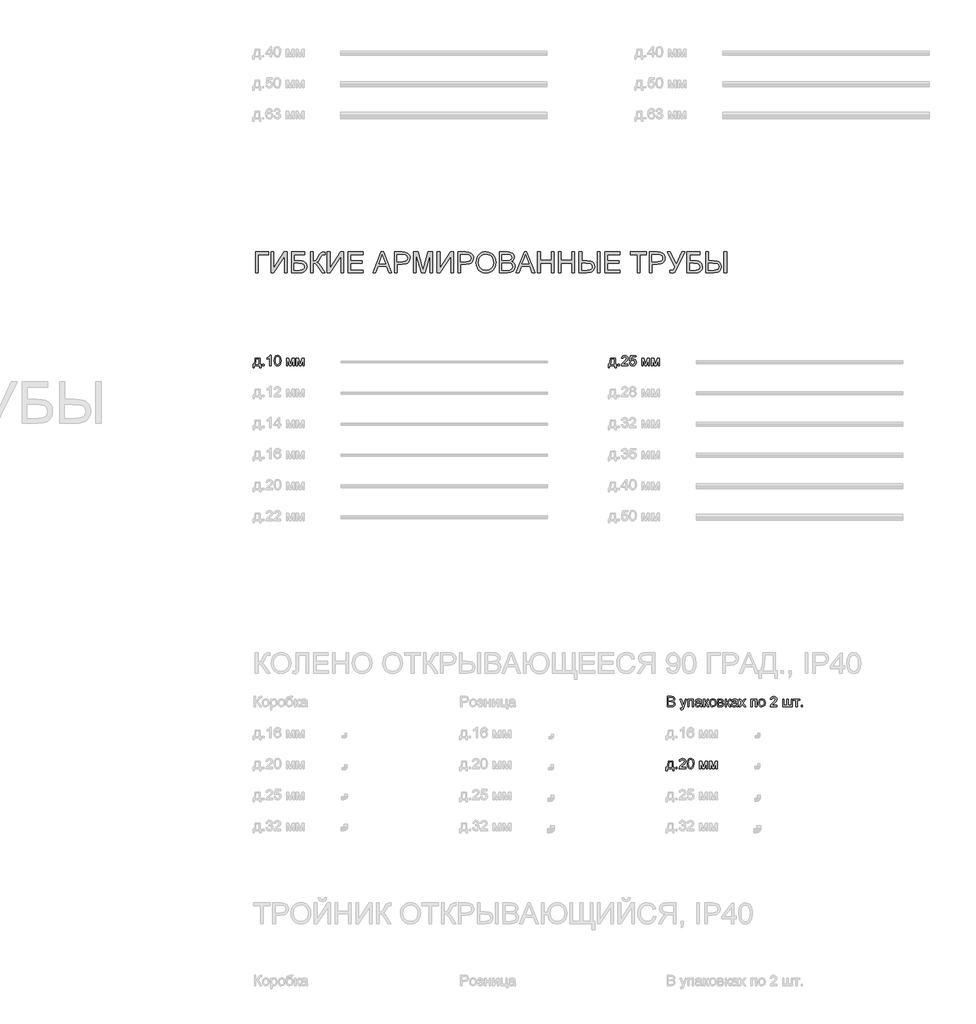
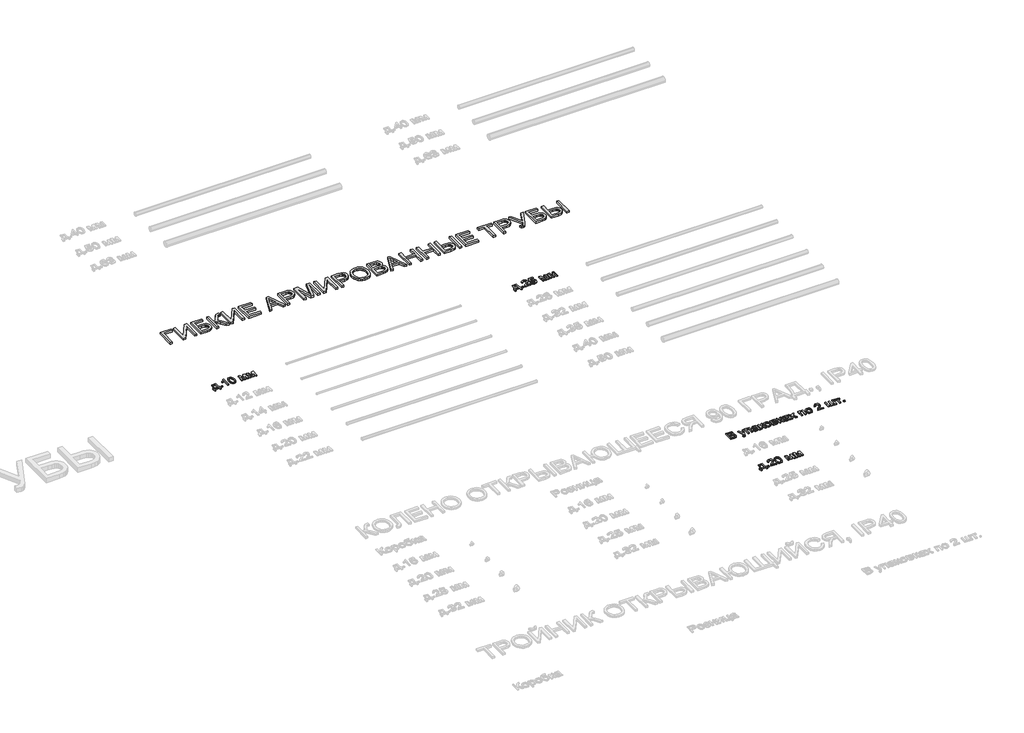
# One storey, part 83 of 98: 5 proxies.
"""IFC4 building model written with IfcOpenShell, lengths in millimetres."""

from ifc_helpers import new_model, si_unit, origin, origin_with_axes, place, context, project, spatial, polyline, outline, extrude, element, save

model = new_model("IFC4")

# Units and contexts
model_context = context("Model", 3, world=origin())
ifc_project = project(units=[si_unit("LENGTHUNIT", "METRE", prefix="MILLI")], contexts=[model_context])

# Site, building, storey
site = spatial("IfcSite", under=ifc_project)
building = spatial("IfcBuilding", under=site)
storey = spatial("IfcBuildingStorey", under=building, Name="Этаж 01", Elevation=0.0)

# Proxies
placement = place(None, origin())
element("IfcBuildingElementProxy", 1, Name="100", ObjectType="100", at=placement, inside=storey, context=model_context, shape_type="SweptSolid", body=[
    extrude(outline(polyline([(-26.9858135, -11785.678477), (20.1030819, -11785.678477), (20.1030819, -11846.894041), (29.520861, -11846.894041), (29.520861, -11879.8562677), (16.9638222, -11879.8562677), (16.9638222, -11859.4510797), (-34.8339627, -11859.4510797), (-34.8339627, -11879.8562677), (-47.3910015, -11879.8562677), (-47.3910015, -11846.894041), (-39.5428522, -11846.894041), (-29.8430303, -11822.9449231), (-26.9858135, -11785.678477)]), holes=[polyline([(-15.9984045, -11798.2355157), (-18.9414605, -11826.8444722), (-25.4161836, -11846.894041), (7.5460431, -11846.894041), (7.5460431, -11798.2355157), (-15.9984045, -11798.2355157)])]), origin_with_axes(), (0.0, 0.0, 1.0), 10.0),
    extrude(outline(polyline([(46.7867893, -11859.4510797), (46.7867893, -11846.894041), (59.3438281, -11846.894041), (59.3438281, -11859.4510797), (46.7867893, -11859.4510797)])), origin_with_axes(), (0.0, 0.0, 1.0), 10.0),
    extrude(outline(polyline([(126.8379114, -11859.4510797), (114.2808727, -11859.4510797), (114.2808727, -11781.1657912), (102.3860215, -11789.6393398), (89.1667951, -11795.9791728), (89.1667951, -11784.1088471), (107.5731576, -11772.3611487), (118.7445076, -11758.9947696), (126.8379114, -11758.9947696), (126.8379114, -11859.4510797)])), origin_with_axes(), (0.0, 0.0, 1.0), 10.0),
    extrude(outline(polyline([(156.6608785, -11810.032265), (160.3519612, -11781.129003), (171.3148447, -11764.4639486), (189.6231053, -11758.9947696), (204.2893342, -11762.2321311), (214.4183518, -11771.5640711), (220.3044637, -11786.4265037), (222.5853321, -11810.032265), (218.9310376, -11838.8128998), (208.0049423, -11855.5147424), (199.7735827, -11859.6442178), (189.6231053, -11861.0207096), (176.5755572, -11858.6294766), (166.6672688, -11851.4557777), (159.1624761, -11834.4657609), (156.6608785, -11810.032265)]), holes=[polyline([(169.2179173, -11810.0077396), (170.6894453, -11829.759937), (175.1040292, -11841.19187), (181.6768542, -11846.6457206), (189.6231053, -11848.4636708), (197.5693564, -11846.6395892), (204.1421814, -11841.1673446), (208.5567653, -11829.7292802), (210.0282933, -11810.0077396), (208.6058162, -11790.7000662), (204.3383851, -11779.1792284), (197.7778228, -11773.4586634), (189.4759525, -11771.5518083), (181.6155405, -11773.2318028), (175.3002329, -11778.2717861), (170.7384962, -11790.5099938), (169.2179173, -11810.0077396)])]), origin_with_axes(), (0.0, 0.0, 1.0), 10.0),
    extrude(outline(polyline([(275.9527468, -11785.678477), (297.5596827, -11785.678477), (314.2124743, -11844.7357999), (332.1651157, -11785.678477), (352.8646093, -11785.678477), (352.8646093, -11859.4510797), (340.3075705, -11859.4510797), (340.3075705, -11800.0504002), (322.2568273, -11859.4510797), (305.7757139, -11859.4510797), (288.5097856, -11797.2054461), (288.5097856, -11859.4510797), (275.9527468, -11859.4510797), (275.9527468, -11785.678477)])), origin_with_axes(), (0.0, 0.0, 1.0), 10.0),
    extrude(outline(polyline([(371.7001674, -11785.678477), (393.3071033, -11785.678477), (409.9598949, -11844.7357999), (427.9125363, -11785.678477), (448.6120299, -11785.678477), (448.6120299, -11859.4510797), (436.0549911, -11859.4510797), (436.0549911, -11800.0504002), (418.0042479, -11859.4510797), (401.5231345, -11859.4510797), (384.2572062, -11797.2054461), (384.2572062, -11859.4510797), (371.7001674, -11859.4510797), (371.7001674, -11785.678477)])), origin_with_axes(), (0.0, 0.0, 1.0), 10.0),
])
element("IfcBuildingElementProxy", 2, Name="100", ObjectType="100", at=placement, inside=storey, context=model_context, shape_type="SweptSolid", body=[
    extrude(outline(polyline([(3413.0141865, -11785.678477), (3460.1030819, -11785.678477), (3460.1030819, -11846.894041), (3469.520861, -11846.894041), (3469.520861, -11879.8562677), (3456.9638222, -11879.8562677), (3456.9638222, -11859.4510797), (3405.1660373, -11859.4510797), (3405.1660373, -11879.8562677), (3392.6089985, -11879.8562677), (3392.6089985, -11846.894041), (3400.4571478, -11846.894041), (3410.1569697, -11822.9449231), (3413.0141865, -11785.678477)]), holes=[polyline([(3424.0015955, -11798.2355157), (3421.0585395, -11826.8444722), (3414.5838164, -11846.894041), (3447.5460431, -11846.894041), (3447.5460431, -11798.2355157), (3424.0015955, -11798.2355157)])]), origin_with_axes(), (0.0, 0.0, 1.0), 10.0),
    extrude(outline(polyline([(3486.7867893, -11859.4510797), (3486.7867893, -11846.894041), (3499.3438281, -11846.894041), (3499.3438281, -11859.4510797), (3486.7867893, -11859.4510797)])), origin_with_axes(), (0.0, 0.0, 1.0), 10.0),
    extrude(outline(polyline([(3584.1038398, -11846.894041), (3584.1038398, -11859.4510797), (3518.1793862, -11859.4510797), (3519.5282869, -11850.7935901), (3527.1557069, -11837.4639991), (3542.8765308, -11822.9081349), (3564.5570431, -11801.9879121), (3569.9771711, -11787.7631416), (3564.8636114, -11776.2484351), (3551.509495, -11771.5518083), (3537.5912928, -11776.1380705), (3532.3060548, -11788.8177367), (3519.7490161, -11787.2481068), (3522.7932396, -11775.1018696), (3529.3752616, -11766.2297821), (3539.1517256, -11760.8035227), (3551.7792751, -11758.9947696), (3564.4987951, -11761.0058578), (3574.256865, -11767.0391225), (3580.4648737, -11776.0522314), (3582.5342099, -11787.0028521), (3580.3023925, -11798.9099661), (3572.8834389, -11811.2217502), (3554.8940093, -11828.4263648), (3540.4485097, -11840.505157), (3534.7831269, -11846.894041), (3584.1038398, -11846.894041)])), origin_with_axes(), (0.0, 0.0, 1.0), 10.0),
    extrude(outline(polyline([(3596.6608785, -11832.7673723), (3609.2179173, -11831.1977425), (3615.5454876, -11844.134926), (3628.6666121, -11848.4636708), (3637.6674583, -11846.9584203), (3644.4119615, -11842.4426688), (3648.6242103, -11835.4375825), (3650.0282933, -11826.4643275), (3644.7675808, -11811.552844), (3638.1610333, -11807.4509597), (3628.8628158, -11806.083665), (3617.8386187, -11808.2664315), (3610.7875471, -11813.9318142), (3598.2305084, -11812.3621843), (3609.2179173, -11760.5643994), (3657.8764425, -11760.5643994), (3657.8764425, -11773.1214382), (3619.3714604, -11773.1214382), (3614.0003832, -11800.7861642), (3622.9705725, -11795.3415107), (3632.3699575, -11793.5266262), (3644.1023275, -11795.7768377), (3653.8420033, -11802.5274723), (3660.3994999, -11812.8159055), (3662.5853321, -11825.6795126), (3660.6171634, -11838.2365513), (3654.7126574, -11848.9787056), (3643.4064174, -11858.0102086), (3628.6175612, -11861.0207096), (3616.2843173, -11859.0862634), (3606.4588023, -11853.2829249), (3599.7234961, -11844.2851445), (3596.6608785, -11832.7673723)])), origin_with_axes(), (0.0, 0.0, 1.0), 10.0),
    extrude(outline(polyline([(3715.9527468, -11785.678477), (3737.5596827, -11785.678477), (3754.2124743, -11844.7357999), (3772.1651157, -11785.678477), (3792.8646093, -11785.678477), (3792.8646093, -11859.4510797), (3780.3075705, -11859.4510797), (3780.3075705, -11800.0504002), (3762.2568273, -11859.4510797), (3745.7757139, -11859.4510797), (3728.5097856, -11797.2054461), (3728.5097856, -11859.4510797), (3715.9527468, -11859.4510797), (3715.9527468, -11785.678477)])), origin_with_axes(), (0.0, 0.0, 1.0), 10.0),
    extrude(outline(polyline([(3811.7001674, -11785.678477), (3833.3071033, -11785.678477), (3849.9598949, -11844.7357999), (3867.9125363, -11785.678477), (3888.6120299, -11785.678477), (3888.6120299, -11859.4510797), (3876.0549911, -11859.4510797), (3876.0549911, -11800.0504002), (3858.0042479, -11859.4510797), (3841.5231345, -11859.4510797), (3824.2572062, -11797.2054461), (3824.2572062, -11859.4510797), (3811.7001674, -11859.4510797), (3811.7001674, -11785.678477)])), origin_with_axes(), (0.0, 0.0, 1.0), 10.0),
])
element("IfcBuildingElementProxy", 3, Name="100", ObjectType="100", at=placement, inside=storey, context=model_context, shape_type="SweptSolid", body=[
    extrude(outline(polyline([(3963.5964075, -15159.5121665), (3963.5964075, -15059.0558563), (4001.9297114, -15059.0558563), (4020.7039558, -15062.011175), (4031.7894666, -15071.0978603), (4035.7993804, -15083.9492046), (4032.4271288, -15095.6846403), (4022.2367975, -15104.5751218), (4034.6098953, -15113.94385), (4038.9386401, -15129.5665721), (4035.9833214, -15143.0678413), (4028.6624697, -15152.6818241), (4017.7363744, -15157.7831211), (4001.6354058, -15159.5121665), (3963.5964075, -15159.5121665)]), holes=[polyline([(3976.1534462, -15099.8662323), (3999.0847573, -15099.8662323), (4012.4756619, -15098.7871118), (4020.5322776, -15094.1395359), (4023.2423416, -15085.9602929), (4020.7162186, -15077.7687871), (4013.481206, -15072.9250075), (3997.3434491, -15071.6128951), (3976.1534462, -15071.6128951), (3976.1534462, -15099.8662323)]), polyline([(3976.1534462, -15146.9551277), (4001.9051859, -15146.9551277), (4011.2248631, -15146.4646184), (4019.1098005, -15143.7300289), (4024.3337249, -15138.1504853), (4026.3816013, -15129.6891994), (4023.9781056, -15119.9280638), (4016.19127, -15114.1032655), (4000.6789126, -15112.4232711), (3976.1534462, -15112.4232711), (3976.1534462, -15146.9551277)])]), origin_with_axes(), (0.0, 0.0, 1.0), 10.0),
    extrude(outline(polyline([(4093.8756847, -15187.7655037), (4092.3060548, -15175.6744488), (4098.6826761, -15176.7780948), (4104.6423644, -15175.3924059), (4108.2966589, -15171.529645), (4111.7302242, -15162.2835442), (4112.7112428, -15159.2423863), (4086.0275354, -15085.7395637), (4099.2712873, -15085.7395637), (4113.4224814, -15126.6970925), (4118.3521001, -15143.080104), (4123.2817188, -15128.6100789), (4137.8253204, -15085.7395637), (4150.9709703, -15085.7395637), (4125.2928071, -15161.278), (4118.6218802, -15177.6610116), (4111.3378167, -15186.5147049), (4101.5521556, -15189.3351335), (4093.8756847, -15187.7655037)])), origin_with_axes(), (0.0, 0.0, 1.0), 10.0),
    extrude(outline(polyline([(4161.3697681, -15085.7395637), (4217.8764425, -15085.7395637), (4217.8764425, -15159.5121665), (4205.3194038, -15159.5121665), (4205.3194038, -15098.2966025), (4173.9268068, -15098.2966025), (4173.9268068, -15159.5121665), (4161.3697681, -15159.5121665), (4161.3697681, -15085.7395637)])), origin_with_axes(), (0.0, 0.0, 1.0), 10.0),
    extrude(outline(polyline([(4283.8008961, -15150.0943874), (4271.624002, -15158.6047242), (4258.1717837, -15161.0817963), (4247.6779498, -15159.5918742), (4239.9370995, -15155.122108), (4235.1638306, -15148.3346852), (4233.572741, -15139.8917934), (4235.9762367, -15129.9589795), (4242.2915443, -15122.7484924), (4251.083924, -15118.6282141), (4261.9487055, -15116.7397532), (4283.7273197, -15112.4232711), (4283.8008961, -15109.6273679), (4280.3428053, -15100.3567416), (4266.4613913, -15096.7269726), (4253.7571998, -15099.142731), (4247.6994096, -15107.7143815), (4235.1423708, -15106.1447517), (4240.5747616, -15093.8820185), (4251.5131196, -15086.6960569), (4268.0800721, -15084.1699338), (4283.298124, -15086.4017513), (4291.8942999, -15092.0058203), (4295.7447982, -15100.5284199), (4296.3579348, -15111.5158288), (4296.3579348, -15127.1385509), (4296.9955969, -15148.9539532), (4299.4971945, -15159.5121665), (4286.9401557, -15159.5121665), (4283.8008961, -15150.0943874)]), holes=[polyline([(4283.8008961, -15124.9803098), (4263.5428609, -15128.8308081), (4252.7393929, -15130.8664218), (4247.8465624, -15134.1773597), (4246.1297797, -15139.0088766), (4249.8699134, -15145.8024308), (4260.8450596, -15148.5247575), (4273.5492511, -15145.5203879), (4281.7407569, -15138.2485871), (4283.7273197, -15128.5365025), (4283.8008961, -15124.9803098)])]), origin_with_axes(), (0.0, 0.0, 1.0), 10.0),
    extrude(outline(polyline([(4313.6238631, -15085.7395637), (4326.1809019, -15085.7395637), (4326.1809019, -15117.1321606), (4334.5931369, -15114.8758177), (4341.4847929, -15101.7301677), (4347.2114893, -15090.3871396), (4352.2637354, -15086.6960569), (4361.4485225, -15085.7395637), (4363.8520182, -15085.7395637), (4363.8520182, -15098.3701789), (4360.4675038, -15098.2966025), (4354.3361373, -15099.6209776), (4350.0196552, -15107.8860598), (4344.9551464, -15116.8255923), (4337.8550239, -15121.203388), (4345.7767495, -15126.0900872), (4353.5513223, -15136.3846517), (4366.9912779, -15159.5121665), (4352.7174565, -15159.5121665), (4339.5472811, -15136.875161), (4332.9254051, -15127.2979664), (4326.1809019, -15124.9803098), (4326.1809019, -15159.5121665), (4313.6238631, -15159.5121665), (4313.6238631, -15085.7395637)])), origin_with_axes(), (0.0, 0.0, 1.0), 10.0),
    extrude(outline(polyline([(4371.7001674, -15122.6258651), (4374.4163628, -15104.8387706), (4382.564949, -15092.3369141), (4392.632653, -15086.2116789), (4404.6869197, -15084.1699338), (4417.8785549, -15086.656203), (4428.4153084, -15094.1150104), (4435.3222928, -15105.957745), (4437.624621, -15121.5957955), (4433.5533936, -15143.9384953), (4421.6953306, -15156.5813732), (4404.6869197, -15161.0817963), (4391.3358689, -15158.6047242), (4380.8113782, -15151.1735079), (4373.9779701, -15139.082453), (4371.7001674, -15122.6258651)]), holes=[polyline([(4384.2572062, -15122.6013396), (4385.7103401, -15133.9658276), (4390.0697417, -15142.0622972), (4396.630304, -15146.9091424), (4404.6869197, -15148.5247575), (4412.7067472, -15146.8999454), (4419.2550467, -15142.025509), (4423.6144483, -15133.8217405), (4425.0675822, -15122.2089321), (4423.6052513, -15111.175538), (4419.2182585, -15103.189433), (4412.6607619, -15098.3425877), (4404.6869197, -15096.7269726), (4396.630304, -15098.3364563), (4390.0697417, -15103.1649075), (4385.7103401, -15111.242983), (4384.2572062, -15122.6013396)])]), origin_with_axes(), (0.0, 0.0, 1.0), 10.0),
    extrude(outline(polyline([(4451.7512896, -15085.7395637), (4479.4160156, -15085.7395637), (4494.5850166, -15087.4195581), (4503.1198788, -15093.5754502), (4506.6883342, -15104.3053417), (4504.5300932, -15113.024145), (4498.0308446, -15119.2413507), (4506.467605, -15126.0471676), (4509.8275939, -15137.8807051), (4507.7000097, -15147.4517684), (4502.6416323, -15154.1901403), (4494.6340675, -15158.1816599), (4483.6589213, -15159.5121665), (4451.7512896, -15159.5121665), (4451.7512896, -15085.7395637)]), holes=[polyline([(4464.3083284, -15146.9551277), (4479.7103212, -15146.9551277), (4493.371006, -15144.6865221), (4497.2705551, -15136.8506356), (4495.1245768, -15130.8051081), (4489.5327705, -15127.2857037), (4478.4840479, -15126.5499397), (4464.3083284, -15126.5499397), (4464.3083284, -15146.9551277)]), polyline([(4464.3083284, -15113.9929009), (4476.7182143, -15113.9929009), (4486.9575965, -15113.3552388), (4491.9362662, -15110.8045903), (4494.1312954, -15106.1938026), (4490.2807972, -15100.0379106), (4477.1106218, -15098.2966025), (4464.3083284, -15098.2966025), (4464.3083284, -15113.9929009)])]), origin_with_axes(), (0.0, 0.0, 1.0), 10.0),
    extrude(outline(polyline([(4525.5238924, -15085.7395637), (4538.0809311, -15085.7395637), (4538.0809311, -15117.1321606), (4546.4931661, -15114.8758177), (4553.3848221, -15101.7301677), (4559.1115185, -15090.3871396), (4564.1637646, -15086.6960569), (4573.3485517, -15085.7395637), (4575.7520474, -15085.7395637), (4575.7520474, -15098.3701789), (4572.3675331, -15098.2966025), (4566.2361665, -15099.6209776), (4561.9196844, -15107.8860598), (4556.8551756, -15116.8255923), (4549.7550531, -15121.203388), (4557.6767787, -15126.0900872), (4565.4513516, -15136.3846517), (4578.8913071, -15159.5121665), (4564.6174857, -15159.5121665), (4551.4473103, -15136.875161), (4544.8254344, -15127.2979664), (4538.0809311, -15124.9803098), (4538.0809311, -15159.5121665), (4525.5238924, -15159.5121665), (4525.5238924, -15085.7395637)])), origin_with_axes(), (0.0, 0.0, 1.0), 10.0),
    extrude(outline(polyline([(4633.8283517, -15150.0943874), (4621.6514577, -15158.6047242), (4608.1992394, -15161.0817963), (4597.7054055, -15159.5918742), (4589.9645552, -15155.122108), (4585.1912863, -15148.3346852), (4583.6001967, -15139.8917934), (4586.0036924, -15129.9589795), (4592.3189999, -15122.7484924), (4601.1113796, -15118.6282141), (4611.9761612, -15116.7397532), (4633.7547753, -15112.4232711), (4633.8283517, -15109.6273679), (4630.370261, -15100.3567416), (4616.488847, -15096.7269726), (4603.7846555, -15099.142731), (4597.7268653, -15107.7143815), (4585.1698265, -15106.1447517), (4590.6022173, -15093.8820185), (4601.5405753, -15086.6960569), (4618.1075278, -15084.1699338), (4633.3255797, -15086.4017513), (4641.9217556, -15092.0058203), (4645.7722538, -15100.5284199), (4646.3853905, -15111.5158288), (4646.3853905, -15127.1385509), (4647.0230526, -15148.9539532), (4649.5246502, -15159.5121665), (4636.9676114, -15159.5121665), (4633.8283517, -15150.0943874)]), holes=[polyline([(4633.8283517, -15124.9803098), (4613.5703165, -15128.8308081), (4602.7668486, -15130.8664218), (4597.8740181, -15134.1773597), (4596.1572354, -15139.0088766), (4599.897369, -15145.8024308), (4610.8725152, -15148.5247575), (4623.5767068, -15145.5203879), (4631.7682126, -15138.2485871), (4633.7547753, -15128.5365025), (4633.8283517, -15124.9803098)])]), origin_with_axes(), (0.0, 0.0, 1.0), 10.0),
    extrude(outline(polyline([(4655.8031696, -15159.5121665), (4682.6340298, -15122.4296613), (4657.3727994, -15085.7395637), (4672.4804867, -15085.7395637), (4684.6696435, -15103.3978995), (4690.3595517, -15111.736558), (4695.2891704, -15104.9184784), (4709.1705843, -15085.7395637), (4724.2782716, -15085.7395637), (4697.741717, -15122.4296613), (4723.297253, -15159.5121665), (4708.1895657, -15159.5121665), (4692.8120983, -15137.2185176), (4689.9916697, -15133.1472901), (4670.9108568, -15159.5121665), (4655.8031696, -15159.5121665)])), origin_with_axes(), (0.0, 0.0, 1.0), 10.0),
    extrude(outline(polyline([(4773.525408, -15085.7395637), (4830.0320825, -15085.7395637), (4830.0320825, -15159.5121665), (4817.4750437, -15159.5121665), (4817.4750437, -15098.2966025), (4786.0824468, -15098.2966025), (4786.0824468, -15159.5121665), (4773.525408, -15159.5121665), (4773.525408, -15085.7395637)])), origin_with_axes(), (0.0, 0.0, 1.0), 10.0),
    extrude(outline(polyline([(4845.728381, -15122.6258651), (4848.4445764, -15104.8387706), (4856.5931625, -15092.3369141), (4866.6608665, -15086.2116789), (4878.7151332, -15084.1699338), (4891.9067684, -15086.656203), (4902.4435219, -15094.1150104), (4909.3505063, -15105.957745), (4911.6528345, -15121.5957955), (4907.5816071, -15143.9384953), (4895.7235441, -15156.5813732), (4878.7151332, -15161.0817963), (4865.3640824, -15158.6047242), (4854.8395917, -15151.1735079), (4848.0061836, -15139.082453), (4845.728381, -15122.6258651)]), holes=[polyline([(4858.2854197, -15122.6013396), (4859.7385536, -15133.9658276), (4864.0979552, -15142.0622972), (4870.6585175, -15146.9091424), (4878.7151332, -15148.5247575), (4886.7349607, -15146.8999454), (4893.2832602, -15142.025509), (4897.6426618, -15133.8217405), (4899.0957957, -15122.2089321), (4897.6334648, -15111.175538), (4893.246472, -15103.189433), (4886.6889754, -15098.3425877), (4878.7151332, -15096.7269726), (4870.6585175, -15098.3364563), (4864.0979552, -15103.1649075), (4859.7385536, -15111.242983), (4858.2854197, -15122.6013396)])]), origin_with_axes(), (0.0, 0.0, 1.0), 10.0),
    extrude(outline(polyline([(5026.2358133, -15146.9551277), (5026.2358133, -15159.5121665), (4960.3113597, -15159.5121665), (4961.6602604, -15150.8546768), (4969.2876804, -15137.5250859), (4985.0085043, -15122.9692216), (5006.6890166, -15102.0489988), (5012.1091446, -15087.8242283), (5006.9955849, -15076.3095219), (4993.6414685, -15071.6128951), (4979.7232663, -15076.1991573), (4974.4380283, -15088.8788234), (4961.8809896, -15087.3091935), (4964.9252131, -15075.1629563), (4971.5072351, -15066.2908689), (4981.2836991, -15060.8646095), (4993.9112486, -15059.0558563), (5006.6307686, -15061.0669445), (5016.3888385, -15067.1002093), (5022.5968472, -15076.1133182), (5024.6661834, -15087.0639389), (5022.434366, -15098.9710528), (5015.0154124, -15111.2828369), (4997.0259828, -15128.4874515), (4982.5804832, -15140.5662437), (4976.9151004, -15146.9551277), (5026.2358133, -15146.9551277)])), origin_with_axes(), (0.0, 0.0, 1.0), 10.0),
    extrude(outline(polyline([(5081.1728579, -15085.7395637), (5093.7298966, -15085.7395637), (5093.7298966, -15146.9551277), (5121.9832339, -15146.9551277), (5121.9832339, -15085.7395637), (5134.5402726, -15085.7395637), (5134.5402726, -15146.9551277), (5162.7936099, -15146.9551277), (5162.7936099, -15085.7395637), (5175.3506486, -15085.7395637), (5175.3506486, -15159.5121665), (5081.1728579, -15159.5121665), (5081.1728579, -15085.7395637)])), origin_with_axes(), (0.0, 0.0, 1.0), 10.0),
    extrude(outline(polyline([(5186.3380576, -15085.7395637), (5245.9839917, -15085.7395637), (5245.9839917, -15098.2966025), (5222.439544, -15098.2966025), (5222.439544, -15159.5121665), (5209.8825052, -15159.5121665), (5209.8825052, -15098.2966025), (5186.3380576, -15098.2966025), (5186.3380576, -15085.7395637)])), origin_with_axes(), (0.0, 0.0, 1.0), 10.0),
    extrude(outline(polyline([(5260.1106603, -15159.5121665), (5260.1106603, -15146.9551277), (5272.6676991, -15146.9551277), (5272.6676991, -15159.5121665), (5260.1106603, -15159.5121665)])), origin_with_axes(), (0.0, 0.0, 1.0), 10.0),
])
element("IfcBuildingElementProxy", 4, Name="100", ObjectType="100", at=placement, inside=storey, context=model_context, shape_type="SweptSolid", body=[
    extrude(outline(polyline([(3973.0141865, -15685.7395637), (4020.1030819, -15685.7395637), (4020.1030819, -15746.9551277), (4029.520861, -15746.9551277), (4029.520861, -15779.9173545), (4016.9638222, -15779.9173545), (4016.9638222, -15759.5121665), (3965.1660373, -15759.5121665), (3965.1660373, -15779.9173545), (3952.6089985, -15779.9173545), (3952.6089985, -15746.9551277), (3960.4571478, -15746.9551277), (3970.1569697, -15723.0060098), (3973.0141865, -15685.7395637)]), holes=[polyline([(3984.0015955, -15698.2966025), (3981.0585395, -15726.905559), (3974.5838164, -15746.9551277), (4007.5460431, -15746.9551277), (4007.5460431, -15698.2966025), (3984.0015955, -15698.2966025)])]), origin_with_axes(), (0.0, 0.0, 1.0), 10.0),
    extrude(outline(polyline([(4046.7867893, -15759.5121665), (4046.7867893, -15746.9551277), (4059.3438281, -15746.9551277), (4059.3438281, -15759.5121665), (4046.7867893, -15759.5121665)])), origin_with_axes(), (0.0, 0.0, 1.0), 10.0),
    extrude(outline(polyline([(4144.1038398, -15746.9551277), (4144.1038398, -15759.5121665), (4078.1793862, -15759.5121665), (4079.5282869, -15750.8546768), (4087.1557069, -15737.5250859), (4102.8765308, -15722.9692216), (4124.5570431, -15702.0489988), (4129.9771711, -15687.8242283), (4124.8636114, -15676.3095219), (4111.509495, -15671.6128951), (4097.5912928, -15676.1991573), (4092.3060548, -15688.8788234), (4079.7490161, -15687.3091935), (4082.7932396, -15675.1629563), (4089.3752616, -15666.2908689), (4099.1517256, -15660.8646095), (4111.7792751, -15659.0558563), (4124.4987951, -15661.0669445), (4134.256865, -15667.1002093), (4140.4648737, -15676.1133182), (4142.5342099, -15687.0639389), (4140.3023925, -15698.9710528), (4132.8834389, -15711.2828369), (4114.8940093, -15728.4874515), (4100.4485097, -15740.5662437), (4094.7831269, -15746.9551277), (4144.1038398, -15746.9551277)])), origin_with_axes(), (0.0, 0.0, 1.0), 10.0),
    extrude(outline(polyline([(4156.6608785, -15710.0933518), (4160.3519612, -15681.1900897), (4171.3148447, -15664.5250353), (4189.6231053, -15659.0558563), (4204.2893342, -15662.2932179), (4214.4183518, -15671.6251578), (4220.3044637, -15686.4875904), (4222.5853321, -15710.0933518), (4218.9310376, -15738.8739865), (4208.0049423, -15755.5758291), (4199.7735827, -15759.7053045), (4189.6231053, -15761.0817963), (4176.5755572, -15758.6905633), (4166.6672688, -15751.5168644), (4159.1624761, -15734.5268476), (4156.6608785, -15710.0933518)]), holes=[polyline([(4169.2179173, -15710.0688263), (4170.6894453, -15729.8210238), (4175.1040292, -15741.2529568), (4181.6768542, -15746.7068073), (4189.6231053, -15748.5247575), (4197.5693564, -15746.700676), (4204.1421814, -15741.2284313), (4208.5567653, -15729.7903669), (4210.0282933, -15710.0688263), (4208.6058162, -15690.7611529), (4204.3383851, -15679.2403151), (4197.7778228, -15673.5197501), (4189.4759525, -15671.6128951), (4181.6155405, -15673.2928895), (4175.3002329, -15678.3328729), (4170.7384962, -15690.5710806), (4169.2179173, -15710.0688263)])]), origin_with_axes(), (0.0, 0.0, 1.0), 10.0),
    extrude(outline(polyline([(4275.9527468, -15685.7395637), (4297.5596827, -15685.7395637), (4314.2124743, -15744.7968867), (4332.1651157, -15685.7395637), (4352.8646093, -15685.7395637), (4352.8646093, -15759.5121665), (4340.3075705, -15759.5121665), (4340.3075705, -15700.111487), (4322.2568273, -15759.5121665), (4305.7757139, -15759.5121665), (4288.5097856, -15697.2665329), (4288.5097856, -15759.5121665), (4275.9527468, -15759.5121665), (4275.9527468, -15685.7395637)])), origin_with_axes(), (0.0, 0.0, 1.0), 10.0),
    extrude(outline(polyline([(4371.7001674, -15685.7395637), (4393.3071033, -15685.7395637), (4409.9598949, -15744.7968867), (4427.9125363, -15685.7395637), (4448.6120299, -15685.7395637), (4448.6120299, -15759.5121665), (4436.0549911, -15759.5121665), (4436.0549911, -15700.111487), (4418.0042479, -15759.5121665), (4401.5231345, -15759.5121665), (4384.2572062, -15697.2665329), (4384.2572062, -15759.5121665), (4371.7001674, -15759.5121665), (4371.7001674, -15685.7395637)])), origin_with_axes(), (0.0, 0.0, 1.0), 10.0),
])
element("IfcBuildingElementProxy", 5, Name="200", ObjectType="200", at=placement, inside=storey, context=model_context, shape_type="SweptSolid", body=[
    extrude(outline(polyline([(-22.2769239, -10758.5384594), (103.2934638, -10758.5384594), (103.2934638, -10783.652537), (2.8371536, -10783.652537), (2.8371536, -10959.4510797), (-22.2769239, -10959.4510797), (-22.2769239, -10758.5384594)])), origin_with_axes(), (0.0, 0.0, 1.0), 20.0),
    extrude(outline(polyline([(125.2682816, -10758.5384594), (150.3823591, -10758.5384594), (150.3823591, -10917.6596851), (255.5475588, -10758.5384594), (282.2312662, -10758.5384594), (282.2312662, -10959.4510797), (257.1171887, -10959.4510797), (257.1171887, -10800.7713125), (152.1972436, -10959.4510797), (125.2682816, -10959.4510797), (125.2682816, -10758.5384594)])), origin_with_axes(), (0.0, 0.0, 1.0), 20.0),
    extrude(outline(polyline([(326.1809019, -10758.5384594), (451.7512896, -10758.5384594), (451.7512896, -10783.652537), (351.2949794, -10783.652537), (351.2949794, -10843.2984711), (398.3348239, -10843.2984711), (421.719856, -10844.5737954), (439.782862, -10848.3997681), (453.6520132, -10855.7696708), (464.4554812, -10867.6767847), (471.4084509, -10883.0052011), (473.7261074, -10900.6390114), (472.0767698, -10915.4462617), (467.128757, -10929.2602307), (458.9065944, -10941.3574169), (447.4348075, -10951.0143193), (429.7396835, -10957.3418896), (402.8475097, -10959.4510797), (326.1809019, -10959.4510797), (326.1809019, -10758.5384594)]), holes=[polyline([(351.2949794, -10934.3370022), (405.1038526, -10934.3370022), (424.1233517, -10932.2646003), (437.7227228, -10926.0473946), (445.8897031, -10915.685385), (448.6120299, -10901.1785717), (447.0546628, -10890.3751038), (442.3825614, -10881.5091477), (434.932951, -10874.9363227), (425.0430567, -10871.0122481), (387.2002622, -10868.4125487), (351.2949794, -10868.4125487), (351.2949794, -10934.3370022)])]), origin_with_axes(), (0.0, 0.0, 1.0), 20.0),
    extrude(outline(polyline([(508.257964, -10758.5384594), (533.3720416, -10758.5384594), (533.3720416, -10846.4377308), (550.3743211, -10844.7761305), (561.4537005, -10839.7913294), (570.4116271, -10828.0620251), (581.0495482, -10806.1669151), (594.9064366, -10778.0852561), (610.6027351, -10764.1793167), (633.0435368, -10758.5384594), (649.5246502, -10758.832765), (649.5246502, -10783.9468426), (643.9818948, -10783.7996898), (638.4391394, -10783.652537), (626.9366957, -10785.1608531), (618.8187663, -10789.6858017), (603.9072828, -10815.5356432), (586.1263197, -10847.026342), (568.786815, -10857.4251397), (588.1741961, -10868.7804306), (607.2917971, -10892.4475057), (649.5246502, -10959.4510797), (620.3883962, -10959.4510797), (584.6793172, -10902.8463034), (559.5407142, -10873.2931165), (547.9340372, -10867.2782458), (533.3720416, -10865.273289), (533.3720416, -10959.4510797), (508.257964, -10959.4510797), (508.257964, -10758.5384594)])), origin_with_axes(), (0.0, 0.0, 1.0), 20.0),
    extrude(outline(polyline([(671.499468, -10758.5384594), (696.6135456, -10758.5384594), (696.6135456, -10917.6596851), (801.7787453, -10758.5384594), (828.4624526, -10758.5384594), (828.4624526, -10959.4510797), (803.3483751, -10959.4510797), (803.3483751, -10800.7713125), (698.4284301, -10959.4510797), (671.499468, -10959.4510797), (671.499468, -10758.5384594)])), origin_with_axes(), (0.0, 0.0, 1.0), 20.0),
    extrude(outline(polyline([(872.4120883, -10959.4510797), (872.4120883, -10758.5384594), (1016.8180342, -10758.5384594), (1016.8180342, -10783.652537), (897.5261659, -10783.652537), (897.5261659, -10843.2984711), (1010.5395148, -10843.2984711), (1010.5395148, -10868.4125487), (897.5261659, -10868.4125487), (897.5261659, -10934.3370022), (1019.9572939, -10934.3370022), (1019.9572939, -10959.4510797), (872.4120883, -10959.4510797)])), origin_with_axes(), (0.0, 0.0, 1.0), 20.0),
    extrude(outline(polyline([(1112.7126076, -10959.4510797), (1192.9108825, -10758.5384594), (1214.2970892, -10758.5384594), (1294.4953641, -10959.4510797), (1267.9588096, -10959.4510797), (1244.9539221, -10896.6658859), (1162.2049987, -10896.6658859), (1139.2491622, -10959.4510797), (1112.7126076, -10959.4510797)]), holes=[polyline([(1171.426574, -10871.5518083), (1235.7813977, -10871.5518083), (1217.6816035, -10822.1575191), (1203.6039859, -10783.652537), (1191.095998, -10817.841037), (1171.426574, -10871.5518083)])]), origin_with_axes(), (0.0, 0.0, 1.0), 20.0),
    extrude(outline(polyline([(1321.3262243, -10959.4510797), (1321.3262243, -10758.5384594), (1395.7855401, -10758.5384594), (1425.8047109, -10760.4514458), (1450.20755, -10769.8446994), (1459.0796374, -10778.1710952), (1466.0264758, -10789.2688688), (1470.5146361, -10802.3593364), (1472.0106895, -10816.6638147), (1467.970119, -10840.3431524), (1455.8484072, -10860.0738901), (1446.1409211, -10867.8423316), (1433.180745, -10873.3912183), (1397.5023228, -10877.8303277), (1346.4403019, -10877.8303277), (1346.4403019, -10959.4510797), (1321.3262243, -10959.4510797)]), holes=[polyline([(1346.4403019, -10852.7162502), (1398.9738508, -10852.7162502), (1421.2429742, -10850.4108564), (1435.958254, -10843.4946748), (1444.1620225, -10832.3969013), (1446.896612, -10817.5467315), (1445.2840626, -10806.2650169), (1440.4464144, -10796.749136), (1432.9845412, -10789.5876998), (1423.4993171, -10785.3693196), (1398.3852396, -10783.652537), (1346.4403019, -10783.652537), (1346.4403019, -10852.7162502)])]), origin_with_axes(), (0.0, 0.0, 1.0), 20.0),
    extrude(outline(polyline([(1506.5425462, -10959.4510797), (1506.5425462, -10758.5384594), (1549.7564179, -10758.5384594), (1590.8610995, -10900.1485021), (1599.1507071, -10929.7262145), (1608.1270278, -10897.6959555), (1648.5449963, -10758.5384594), (1691.758868, -10758.5384594), (1691.758868, -10959.4510797), (1666.6447905, -10959.4510797), (1666.6447905, -10783.652537), (1616.1713807, -10959.4510797), (1582.1300334, -10959.4510797), (1531.6566237, -10783.652537), (1531.6566237, -10959.4510797), (1506.5425462, -10959.4510797)])), origin_with_axes(), (0.0, 0.0, 1.0), 20.0),
    extrude(outline(polyline([(1735.7085037, -10758.5384594), (1760.8225812, -10758.5384594), (1760.8225812, -10917.6596851), (1865.9877809, -10758.5384594), (1892.6714883, -10758.5384594), (1892.6714883, -10959.4510797), (1867.5574108, -10959.4510797), (1867.5574108, -10800.7713125), (1762.6374657, -10959.4510797), (1735.7085037, -10959.4510797), (1735.7085037, -10758.5384594)])), origin_with_axes(), (0.0, 0.0, 1.0), 20.0),
    extrude(outline(polyline([(1936.621124, -10959.4510797), (1936.621124, -10758.5384594), (2011.0804398, -10758.5384594), (2041.0996106, -10760.4514458), (2065.5024496, -10769.8446994), (2074.3745371, -10778.1710952), (2081.3213754, -10789.2688688), (2085.8095358, -10802.3593364), (2087.3055892, -10816.6638147), (2083.2650186, -10840.3431524), (2071.1433069, -10860.0738901), (2061.4358207, -10867.8423316), (2048.4756446, -10873.3912183), (2012.7972225, -10877.8303277), (1961.7352015, -10877.8303277), (1961.7352015, -10959.4510797), (1936.621124, -10959.4510797)]), holes=[polyline([(1961.7352015, -10852.7162502), (2014.2687504, -10852.7162502), (2036.5378739, -10850.4108564), (2051.2531537, -10843.4946748), (2059.4569222, -10832.3969013), (2062.1915117, -10817.5467315), (2060.5789623, -10806.2650169), (2055.741314, -10796.749136), (2048.2794409, -10789.5876998), (2038.7942168, -10785.3693196), (2013.6801392, -10783.652537), (1961.7352015, -10783.652537), (1961.7352015, -10852.7162502)])]), origin_with_axes(), (0.0, 0.0, 1.0), 20.0),
    extrude(outline(polyline([(2112.4196667, -10861.6435199), (2114.0935298, -10838.0776125), (2119.1151191, -10817.2156377), (2127.4844344, -10799.0575955), (2139.201476, -10783.603486), (2153.5642022, -10771.2641108), (2169.8705717, -10762.4502713), (2188.1205843, -10757.1619676), (2208.3142402, -10755.3991997), (2234.6668537, -10758.7101377), (2258.2971406, -10768.6429516), (2277.9175136, -10784.4986656), (2292.240386, -10805.5783039), (2300.9959775, -10830.8640597), (2303.914508, -10859.3381261), (2300.8426933, -10888.1923373), (2291.6272493, -10913.8337123), (2276.7770795, -10934.9501388), (2256.8010871, -10950.2295044), (2233.3731354, -10959.5001307), (2208.1670874, -10962.5903394), (2181.4098036, -10959.1751682), (2157.6446267, -10948.9296547), (2138.0733045, -10932.7796351), (2123.897585, -10911.6509458), (2115.2891463, -10887.3400773), (2112.4196667, -10861.6435199)]), holes=[polyline([(2137.5337443, -10861.8887746), (2142.5553335, -10893.3181597), (2157.6201012, -10917.2672776), (2180.263238, -10932.4240158), (2208.0199346, -10937.4762619), (2236.1813013, -10932.3749649), (2258.8612263, -10917.0710739), (2267.5846281, -10905.7985564), (2273.8156294, -10892.386192), (2278.8004304, -10859.1419224), (2276.6667149, -10836.9095871), (2270.2655681, -10817.6938842), (2259.7625372, -10801.9791917), (2245.3231689, -10790.2498874), (2227.9039564, -10782.9474298), (2208.461393, -10780.5132773), (2181.4465918, -10785.2037727), (2158.4784925, -10799.275259), (2149.3151652, -10810.2243469), (2142.7699313, -10824.3096288), (2137.5337443, -10861.8887746)])]), origin_with_axes(), (0.0, 0.0, 1.0), 20.0),
    extrude(outline(polyline([(2338.4463646, -10959.4510797), (2338.4463646, -10758.5384594), (2415.1129724, -10758.5384594), (2436.1987421, -10760.0161188), (2452.6614614, -10764.4490968), (2465.2798138, -10771.9477581), (2474.8324829, -10782.6224674), (2480.8473536, -10795.1795061), (2482.8523104, -10808.3251561), (2481.1661846, -10820.4223424), (2476.1078072, -10831.7960274), (2467.6403899, -10841.7472354), (2455.7271446, -10849.5769905), (2469.9580465, -10857.0082068), (2480.4733402, -10868.3144468), (2486.9664574, -10882.7476837), (2489.1308298, -10899.5598909), (2483.2201924, -10926.5624294), (2468.578489, -10945.790395), (2446.7262985, -10955.992989), (2414.5243612, -10959.4510797), (2338.4463646, -10959.4510797)]), holes=[polyline([(2363.5604421, -10934.3370022), (2415.0639214, -10934.3370022), (2433.7032759, -10933.3559835), (2449.4731507, -10927.8868045), (2459.9209994, -10916.7277174), (2464.0167523, -10899.8051456), (2459.2097609, -10880.2828744), (2452.9128474, -10873.2256714), (2443.6360897, -10868.6332778), (2412.6113748, -10865.273289), (2363.5604421, -10865.273289), (2363.5604421, -10934.3370022)]), polyline([(2363.5604421, -10840.1592114), (2409.4230642, -10840.1592114), (2436.2048734, -10838.0009704), (2452.3181048, -10828.7058186), (2457.7382329, -10812.3473326), (2452.6859868, -10795.9643211), (2438.2159617, -10786.2767619), (2405.940448, -10783.652537), (2363.5604421, -10783.652537), (2363.5604421, -10840.1592114)])]), origin_with_axes(), (0.0, 0.0, 1.0), 20.0),
    extrude(outline(polyline([(2500.2653915, -10959.4510797), (2580.4636665, -10758.5384594), (2601.8498731, -10758.5384594), (2682.0481481, -10959.4510797), (2655.5115935, -10959.4510797), (2632.5067061, -10896.6658859), (2549.7577826, -10896.6658859), (2526.8019461, -10959.4510797), (2500.2653915, -10959.4510797)]), holes=[polyline([(2558.979358, -10871.5518083), (2623.3341816, -10871.5518083), (2605.2343875, -10822.1575191), (2591.1567698, -10783.652537), (2578.648782, -10817.841037), (2558.979358, -10871.5518083)])]), origin_with_axes(), (0.0, 0.0, 1.0), 20.0),
    extrude(outline(polyline([(2708.8790083, -10959.4510797), (2708.8790083, -10758.5384594), (2733.9930858, -10758.5384594), (2733.9930858, -10840.1592114), (2840.7279153, -10840.1592114), (2840.7279153, -10758.5384594), (2865.8419929, -10758.5384594), (2865.8419929, -10959.4510797), (2840.7279153, -10959.4510797), (2840.7279153, -10865.273289), (2733.9930858, -10865.273289), (2733.9930858, -10959.4510797), (2708.8790083, -10959.4510797)])), origin_with_axes(), (0.0, 0.0, 1.0), 20.0),
    extrude(outline(polyline([(2909.7916286, -10959.4510797), (2909.7916286, -10758.5384594), (2934.9057061, -10758.5384594), (2934.9057061, -10840.1592114), (3041.6405356, -10840.1592114), (3041.6405356, -10758.5384594), (3066.7546132, -10758.5384594), (3066.7546132, -10959.4510797), (3041.6405356, -10959.4510797), (3041.6405356, -10865.273289), (2934.9057061, -10865.273289), (2934.9057061, -10959.4510797), (2909.7916286, -10959.4510797)])), origin_with_axes(), (0.0, 0.0, 1.0), 20.0),
    extrude(outline(polyline([(3286.5027916, -10758.5384594), (3311.6168692, -10758.5384594), (3311.6168692, -10959.4510797), (3286.5027916, -10959.4510797), (3286.5027916, -10758.5384594)])), origin_with_axes(), (0.0, 0.0, 1.0), 20.0),
    extrude(outline(polyline([(3110.7042489, -10758.5384594), (3135.8183264, -10758.5384594), (3135.8183264, -10843.2984711), (3184.0844442, -10843.2984711), (3223.3619785, -10847.6885296), (3236.9214957, -10853.1761027), (3246.4281796, -10860.858705), (3257.6485805, -10879.5961613), (3261.3887141, -10900.6880624), (3257.4339826, -10922.7180625), (3245.5697883, -10941.8172694), (3235.9634697, -10949.5320614), (3222.9634397, -10955.0426271), (3186.7822455, -10959.4510797), (3110.7042489, -10959.4510797), (3110.7042489, -10758.5384594)]), holes=[polyline([(3135.8183264, -10934.3370022), (3186.5369908, -10934.3370022), (3209.0942885, -10932.344308), (3224.4778872, -10926.3662256), (3233.3254492, -10915.9980847), (3236.2746365, -10900.8352152), (3234.4904089, -10889.8845944), (3229.1377258, -10880.8714856), (3220.9584828, -10874.2863978), (3210.6945751, -10870.6198406), (3172.9498824, -10868.4125487), (3135.8183264, -10868.4125487), (3135.8183264, -10934.3370022)])]), origin_with_axes(), (0.0, 0.0, 1.0), 20.0),
    extrude(outline(polyline([(3358.7057645, -10959.4510797), (3358.7057645, -10758.5384594), (3503.1117104, -10758.5384594), (3503.1117104, -10783.652537), (3383.8198421, -10783.652537), (3383.8198421, -10843.2984711), (3496.833191, -10843.2984711), (3496.833191, -10868.4125487), (3383.8198421, -10868.4125487), (3383.8198421, -10934.3370022), (3506.2509701, -10934.3370022), (3506.2509701, -10959.4510797), (3358.7057645, -10959.4510797)])), origin_with_axes(), (0.0, 0.0, 1.0), 20.0),
    extrude(outline(polyline([(3672.6317338, -10959.4510797), (3672.6317338, -10783.652537), (3606.7072802, -10783.652537), (3606.7072802, -10758.5384594), (3763.6702648, -10758.5384594), (3763.6702648, -10783.652537), (3697.7458113, -10783.652537), (3697.7458113, -10959.4510797), (3672.6317338, -10959.4510797)])), origin_with_axes(), (0.0, 0.0, 1.0), 20.0),
    extrude(outline(polyline([(3791.9236021, -10959.4510797), (3791.9236021, -10758.5384594), (3866.3829179, -10758.5384594), (3896.4020887, -10760.4514458), (3920.8049277, -10769.8446994), (3929.6770152, -10778.1710952), (3936.6238535, -10789.2688688), (3941.1120138, -10802.3593364), (3942.6080673, -10816.6638147), (3938.5674967, -10840.3431524), (3926.445785, -10860.0738901), (3916.7382988, -10867.8423316), (3903.7781227, -10873.3912183), (3868.0997005, -10877.8303277), (3817.0376796, -10877.8303277), (3817.0376796, -10959.4510797), (3791.9236021, -10959.4510797)]), holes=[polyline([(3817.0376796, -10852.7162502), (3869.5712285, -10852.7162502), (3891.840352, -10850.4108564), (3906.5556318, -10843.4946748), (3914.7594003, -10832.3969013), (3917.4939897, -10817.5467315), (3915.8814403, -10806.2650169), (3911.0437921, -10796.749136), (3903.581919, -10789.5876998), (3894.0966949, -10785.3693196), (3868.9826173, -10783.652537), (3817.0376796, -10783.652537), (3817.0376796, -10852.7162502)])]), origin_with_axes(), (0.0, 0.0, 1.0), 20.0),
    extrude(outline(polyline([(3963.0132553, -10758.5384594), (3990.8251341, -10758.5384594), (4050.9125267, -10877.5360221), (4104.9666545, -10758.5384594), (4132.5332787, -10758.5384594), (4056.2590783, -10915.0599856), (4035.5105338, -10953.5159169), (4025.6635591, -10960.3217338), (4012.3094426, -10962.5903394), (3989.6969627, -10959.4510797), (3989.6969627, -10937.4762619), (4009.4644885, -10937.4762619), (4024.1307174, -10931.8844556), (4037.7178258, -10906.4270215), (3963.0132553, -10758.5384594)])), origin_with_axes(), (0.0, 0.0, 1.0), 20.0),
    extrude(outline(polyline([(4156.0777264, -10758.5384594), (4281.648114, -10758.5384594), (4281.648114, -10783.652537), (4181.1918039, -10783.652537), (4181.1918039, -10843.2984711), (4228.2316483, -10843.2984711), (4251.6166805, -10844.5737954), (4269.6796865, -10848.3997681), (4283.5488377, -10855.7696708), (4294.3523056, -10867.6767847), (4301.3052753, -10883.0052011), (4303.6229319, -10900.6390114), (4301.9735943, -10915.4462617), (4297.0255814, -10929.2602307), (4288.8034188, -10941.3574169), (4277.331632, -10951.0143193), (4259.636508, -10957.3418896), (4232.7443341, -10959.4510797), (4156.0777264, -10959.4510797), (4156.0777264, -10758.5384594)]), holes=[polyline([(4181.1918039, -10934.3370022), (4235.0006771, -10934.3370022), (4254.0201762, -10932.2646003), (4267.6195473, -10926.0473946), (4275.7865276, -10915.685385), (4278.5088543, -10901.1785717), (4276.9514872, -10890.3751038), (4272.2793859, -10881.5091477), (4264.8297755, -10874.9363227), (4254.9398812, -10871.0122481), (4217.0970866, -10868.4125487), (4181.1918039, -10868.4125487), (4181.1918039, -10934.3370022)])]), origin_with_axes(), (0.0, 0.0, 1.0), 20.0),
    extrude(outline(polyline([(4513.9533313, -10758.5384594), (4539.0674088, -10758.5384594), (4539.0674088, -10959.4510797), (4513.9533313, -10959.4510797), (4513.9533313, -10758.5384594)])), origin_with_axes(), (0.0, 0.0, 1.0), 20.0),
    extrude(outline(polyline([(4338.1547885, -10758.5384594), (4363.268866, -10758.5384594), (4363.268866, -10843.2984711), (4411.5349838, -10843.2984711), (4450.8125182, -10847.6885296), (4464.3720354, -10853.1761027), (4473.8787193, -10860.858705), (4485.0991201, -10879.5961613), (4488.8392537, -10900.6880624), (4484.8845223, -10922.7180625), (4473.0203279, -10941.8172694), (4463.4140093, -10949.5320614), (4450.4139793, -10955.0426271), (4414.2327851, -10959.4510797), (4338.1547885, -10959.4510797), (4338.1547885, -10758.5384594)]), holes=[polyline([(4363.268866, -10934.3370022), (4413.9875304, -10934.3370022), (4436.5448281, -10932.344308), (4451.9284269, -10926.3662256), (4460.7759889, -10915.9980847), (4463.7251762, -10900.8352152), (4461.9409485, -10889.8845944), (4456.5882655, -10880.8714856), (4448.4090225, -10874.2863978), (4438.1451148, -10870.6198406), (4400.4004221, -10868.4125487), (4363.268866, -10868.4125487), (4363.268866, -10934.3370022)])]), origin_with_axes(), (0.0, 0.0, 1.0), 20.0),
])

save(model, "model.ifc")
